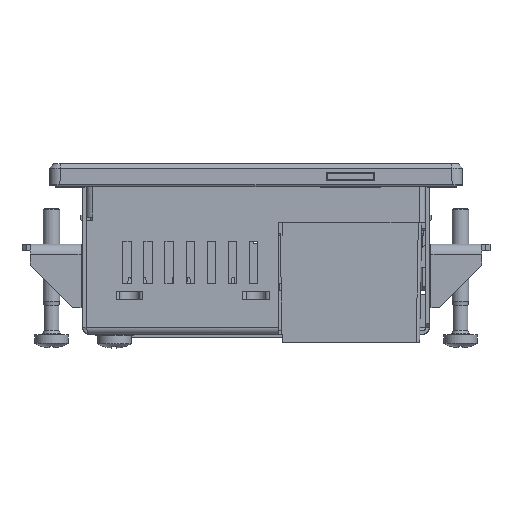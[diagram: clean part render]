
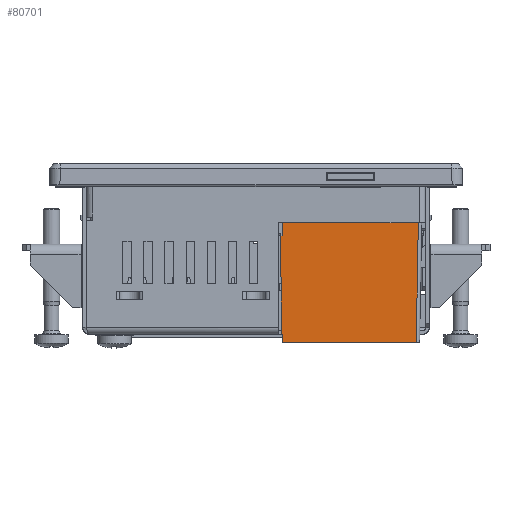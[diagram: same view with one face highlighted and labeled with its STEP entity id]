
A CAD part, top view. The second image highlights one B-rep face of the part: STEP entity #80701.
In plain terms, the highlighted planar face has unit normal (0, -0.018, 1).
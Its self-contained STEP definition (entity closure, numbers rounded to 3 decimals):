
#14201=DIRECTION('',(-1.,0.,0.));
#14202=VECTOR('',#14201,9.4);
#14203=CARTESIAN_POINT('',(64.6,1.8,-4.018));
#14204=LINE('',#14203,#14202);
#17386=DIRECTION('',(-1.,0.,0.));
#17387=VECTOR('',#17386,9.383);
#17388=CARTESIAN_POINT('',(87.683,1.8,-4.018));
#17389=LINE('',#17388,#17387);
#17442=CARTESIAN_POINT('',(87.,-37.3,-4.7));
#17468=DIRECTION('',(-1.,0.,0.));
#17469=VECTOR('',#17468,31.8);
#17470=CARTESIAN_POINT('',(87.,-37.3,-4.7));
#17471=LINE('',#17470,#17469);
#17531=DIRECTION('',(0.017,-1.,-0.017));
#17532=VECTOR('',#17531,25.308);
#17533=CARTESIAN_POINT('',(54.758,-12.,-4.258));
#17534=LINE('',#17533,#17532);
#17763=DIRECTION('',(-1.,0.,0.));
#17764=VECTOR('',#17763,0.442);
#17765=CARTESIAN_POINT('',(55.2,-12.,-4.258));
#17766=LINE('',#17765,#17764);
#17777=DIRECTION('',(0.,1.,0.017));
#17778=VECTOR('',#17777,0.194);
#17779=CARTESIAN_POINT('',(55.2,-12.,-4.258));
#17780=LINE('',#17779,#17778);
#17791=DIRECTION('',(-0.017,-1.,-0.017));
#17792=VECTOR('',#17791,39.112);
#17793=CARTESIAN_POINT('',(87.683,1.8,-4.018));
#17794=LINE('',#17793,#17792);
#17798=DIRECTION('',(0.,1.,0.017));
#17799=VECTOR('',#17798,13.608);
#17800=CARTESIAN_POINT('',(55.2,-11.806,-4.255));
#17801=LINE('',#17800,#17799);
#17805=DIRECTION('',(-0.035,0.999,0.017));
#17806=VECTOR('',#17805,1.801);
#17807=CARTESIAN_POINT('',(64.663,0.,-4.049));
#17808=LINE('',#17807,#17806);
#19894=DIRECTION('',(-1.,0.,0.));
#19895=VECTOR('',#19894,13.574);
#19896=CARTESIAN_POINT('',(78.237,0.,-4.049));
#19897=LINE('',#19896,#19895);
#23116=DIRECTION('',(0.035,0.999,0.017));
#23117=VECTOR('',#23116,1.801);
#23118=CARTESIAN_POINT('',(78.237,0.,-4.049));
#23119=LINE('',#23118,#23117);
#65119=CARTESIAN_POINT('',(55.2,-37.3,-4.7));
#65121=VERTEX_POINT('',#65119);
#65207=CARTESIAN_POINT('',(55.2,-12.,-4.258));
#65208=CARTESIAN_POINT('',(55.2,-11.806,-4.255));
#65209=VERTEX_POINT('',#65207);
#65210=VERTEX_POINT('',#65208);
#65301=CARTESIAN_POINT('',(55.2,1.8,-4.018));
#65302=VERTEX_POINT('',#65301);
#65318=VERTEX_POINT('',#17442);
#65319=CARTESIAN_POINT('',(87.683,1.8,-4.018));
#65320=VERTEX_POINT('',#65319);
#66407=CARTESIAN_POINT('',(54.758,-12.,-4.258));
#66408=VERTEX_POINT('',#66407);
#66974=CARTESIAN_POINT('',(64.6,1.8,-4.018));
#66975=VERTEX_POINT('',#66974);
#66976=CARTESIAN_POINT('',(78.237,0.,-4.049));
#66977=CARTESIAN_POINT('',(64.663,0.,-4.049));
#66978=VERTEX_POINT('',#66976);
#66979=VERTEX_POINT('',#66977);
#66980=CARTESIAN_POINT('',(78.3,1.8,-4.018));
#66981=VERTEX_POINT('',#66980);
#80679=CARTESIAN_POINT('',(88.92,-37.3,-4.7));
#80680=DIRECTION('',(0.,-0.017,1.));
#80681=DIRECTION('',(-1.,0.,0.));
#80682=AXIS2_PLACEMENT_3D('',#80679,#80680,#80681);
#80683=PLANE('',#80682);
#80684=ORIENTED_EDGE('',*,*,#80503,.F.);
#80685=ORIENTED_EDGE('',*,*,#80661,.F.);
#80686=ORIENTED_EDGE('',*,*,#80672,.T.);
#80688=ORIENTED_EDGE('',*,*,#80687,.T.);
#80689=ORIENTED_EDGE('',*,*,#78677,.F.);
#80691=ORIENTED_EDGE('',*,*,#80690,.F.);
#80693=ORIENTED_EDGE('',*,*,#80692,.F.);
#80695=ORIENTED_EDGE('',*,*,#80694,.T.);
#80696=ORIENTED_EDGE('',*,*,#80376,.F.);
#80697=ORIENTED_EDGE('',*,*,#80394,.T.);
#80698=ORIENTED_EDGE('',*,*,#80412,.T.);
#80699=EDGE_LOOP('',(#80684,#80685,#80686,#80688,#80689,#80691,#80693,#80695,
#80696,#80697,#80698));
#80700=FACE_OUTER_BOUND('',#80699,.F.);
#80701=ADVANCED_FACE('',(#80700),#80683,.T.);
#78677=EDGE_CURVE('',#66975,#65302,#14204,.T.);
#80376=EDGE_CURVE('',#65320,#66981,#17389,.T.);
#80394=EDGE_CURVE('',#65320,#65318,#17794,.T.);
#80412=EDGE_CURVE('',#65318,#65121,#17471,.T.);
#80503=EDGE_CURVE('',#66408,#65121,#17534,.T.);
#80661=EDGE_CURVE('',#65209,#66408,#17766,.T.);
#80672=EDGE_CURVE('',#65209,#65210,#17780,.T.);
#80687=EDGE_CURVE('',#65210,#65302,#17801,.T.);
#80690=EDGE_CURVE('',#66979,#66975,#17808,.T.);
#80692=EDGE_CURVE('',#66978,#66979,#19897,.T.);
#80694=EDGE_CURVE('',#66978,#66981,#23119,.T.);
